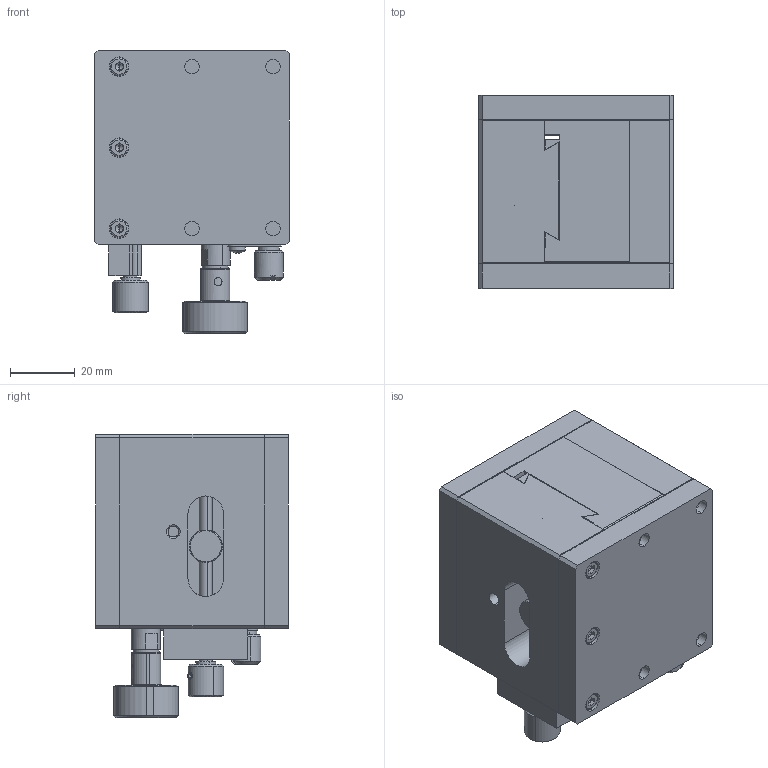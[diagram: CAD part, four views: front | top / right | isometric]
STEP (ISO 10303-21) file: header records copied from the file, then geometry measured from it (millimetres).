
FILE_DESCRIPTION (( 'STEP AP203' ), '1' );
FILE_NAME ('BWEE60.STEP', '2024-02-26T12:39:15', ( 'China' ), ( 'Microsoft' ), 'SwSTEP 2.0', 'SolidWorks 2024', '' );
FILE_SCHEMA (( 'CONFIG_CONTROL_DESIGN' ));
Products named in the file (1): BWEE60
Bounding box: 60 x 59.5 x 87.4 mm (x, y, z)
Volume: 211503.1 mm3; surface area: 70360.5 mm2
Topology: 29 solids, 29 shells, 997 faces, 2539 edges, 1602 vertices
Faces by surface type: plane 490, cylinder 313, cone 136, bspline 36, torus 18, sphere 4
Entity records: 118036 total; most frequent: CARTESIAN_POINT 94098, ORIENTED_EDGE 4954, DIRECTION 4946, EDGE_CURVE 2477, AXIS2_PLACEMENT_3D 1768, VERTEX_POINT 1602, VECTOR 1410, LINE 1410
